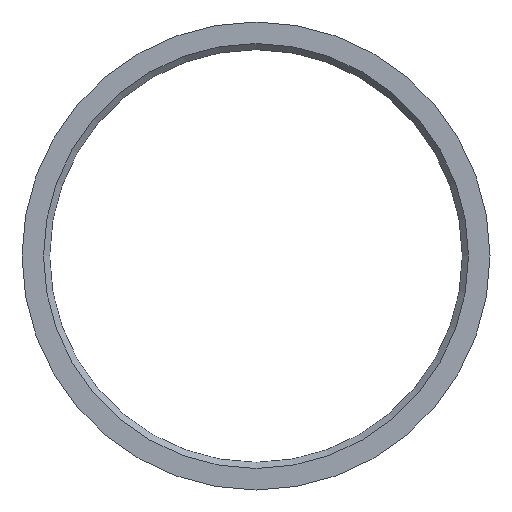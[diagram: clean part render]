
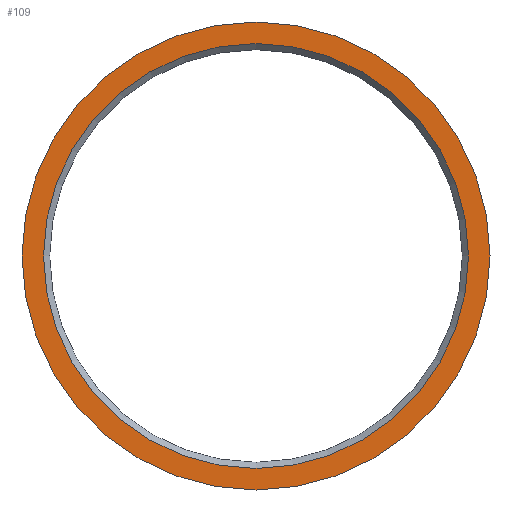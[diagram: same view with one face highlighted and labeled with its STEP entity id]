
A CAD part, front view. The second image highlights one B-rep face of the part: STEP entity #109.
In plain terms, the highlighted planar face has unit normal (0, -1, 0).
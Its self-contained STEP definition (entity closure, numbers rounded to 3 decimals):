
#16=FACE_BOUND('',#34,.T.);
#18=PLANE('',#144);
#25=FACE_OUTER_BOUND('',#33,.T.);
#33=EDGE_LOOP('',(#90));
#34=EDGE_LOOP('',(#91));
#51=CIRCLE('',#143,34.55);
#52=CIRCLE('',#145,38.05);
#59=VERTEX_POINT('',#202);
#60=VERTEX_POINT('',#206);
#70=EDGE_CURVE('',#59,#59,#51,.T.);
#71=EDGE_CURVE('',#60,#60,#52,.T.);
#90=ORIENTED_EDGE('',*,*,#71,.F.);
#91=ORIENTED_EDGE('',*,*,#70,.F.);
#109=ADVANCED_FACE('',(#25,#16),#18,.F.);
#143=AXIS2_PLACEMENT_3D('',#204,#171,#172);
#144=AXIS2_PLACEMENT_3D('',#205,#173,#174);
#145=AXIS2_PLACEMENT_3D('',#207,#175,#176);
#171=DIRECTION('center_axis',(0.,-1.,0.));
#172=DIRECTION('ref_axis',(1.,0.,0.));
#173=DIRECTION('center_axis',(0.,1.,0.));
#174=DIRECTION('ref_axis',(0.,0.,1.));
#175=DIRECTION('center_axis',(0.,1.,0.));
#176=DIRECTION('ref_axis',(-1.,0.,0.));
#202=CARTESIAN_POINT('',(-34.55,0.,0.));
#204=CARTESIAN_POINT('Origin',(0.,0.,0.));
#205=CARTESIAN_POINT('Origin',(0.,0.,0.));
#206=CARTESIAN_POINT('',(-38.05,0.,0.));
#207=CARTESIAN_POINT('Origin',(0.,0.,0.));
